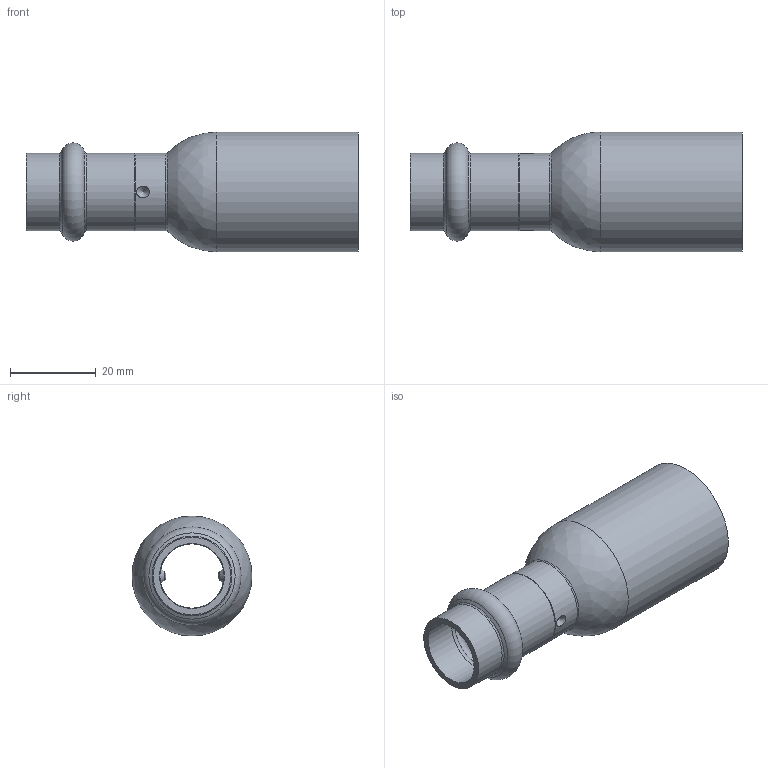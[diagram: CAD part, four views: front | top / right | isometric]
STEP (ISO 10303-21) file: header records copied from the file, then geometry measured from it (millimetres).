
FILE_DESCRIPTION((''),'2;1');
FILE_NAME('G:\Technics\CAD\Bauteile\022\692432815(1).stp','2008-02-27T08:18:06',('herberg'),(''),'Autodesk Inventor 2008','Autodesk Inventor 2008','');
FILE_SCHEMA(('AUTOMOTIVE_DESIGN { 1 0 10303 214 1 1 1 1 }'));
Length unit declared in the file: millimetre
Products named in the file (1): 692432815(1)
Bounding box: 77.5 x 28 x 28 mm (x, y, z)
Volume: 8378.3 mm3; surface area: 11373.6 mm2
Topology: 1 solids, 1 shells, 30 faces, 70 edges, 41 vertices
Faces by surface type: cone 8, cylinder 8, bspline 8, sphere 2, torus 2, plane 2
Full cylindrical faces by diameter (mm): 15 x1, 15.15 x2, 18 x1, 18.15 x2, 25 x1, 28 x1
Entity records: 1168 total; most frequent: CARTESIAN_POINT 647, DIRECTION 100, ORIENTED_EDGE 70, EDGE_LOOP 58, AXIS2_PLACEMENT_3D 50, EDGE_CURVE 35, VERTEX_POINT 33, FACE_OUTER_BOUND 30
